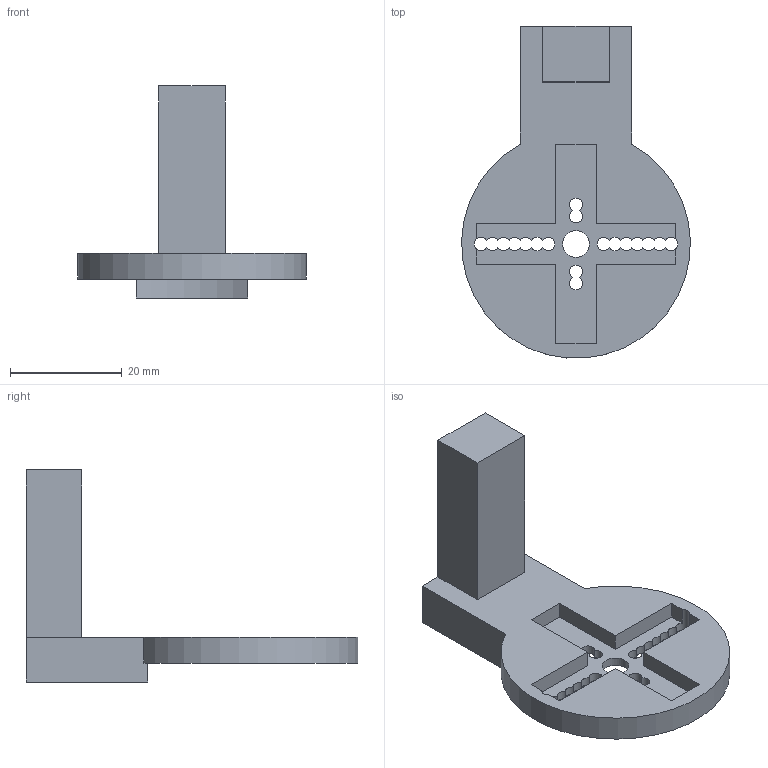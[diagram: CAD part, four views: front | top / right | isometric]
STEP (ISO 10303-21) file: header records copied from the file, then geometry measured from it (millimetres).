
FILE_DESCRIPTION(('Open CASCADE Model'),'2;1');
FILE_NAME('Open CASCADE Shape Model','2026-11-19T06:38:44',('Author'),( 'Open CASCADE'),'Open CASCADE STEP processor 8.0','Open CASCADE 8.0' ,'Unknown');
FILE_SCHEMA(('AUTOMOTIVE_DESIGN { 1 0 10303 214 1 1 1 1 }'));
Length unit declared in the file: millimetre
Products named in the file (1): Open CASCADE STEP translator 8.0 3
Bounding box: 40.96 x 59.43 x 38 mm (x, y, z)
Volume: 11275.9 mm3; surface area: 6222.4 mm2
Topology: 1 solids, 1 shells, 56 faces, 165 edges, 110 vertices
Faces by surface type: cylinder 31, plane 25
Full cylindrical faces by diameter (mm): 4.8 x1
Entity records: 3972 total; most frequent: CARTESIAN_POINT 814, DIRECTION 553, ORIENTED_EDGE 330, PCURVE 330, DEFINITIONAL_REPRESENTATION 330, LINE 247, VECTOR 247, EDGE_CURVE 165
